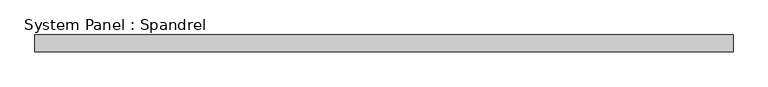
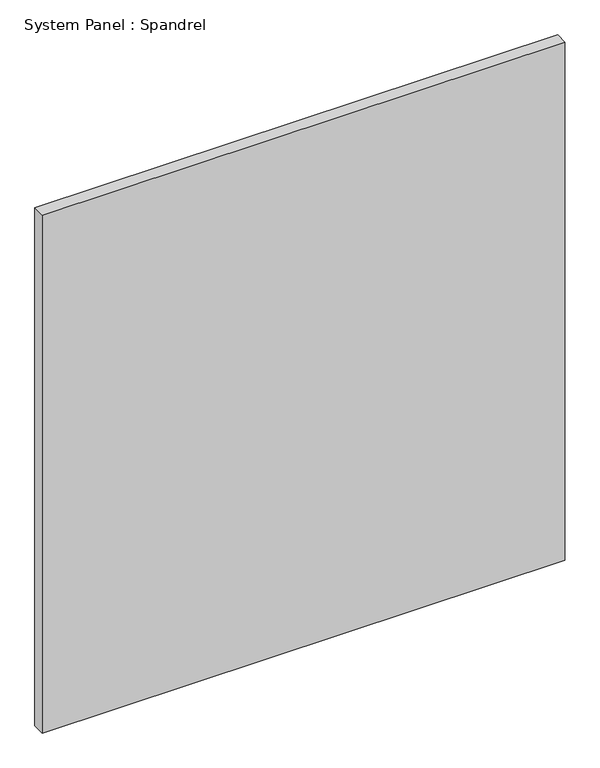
"""IFC4 building model written with IfcOpenShell, lengths in millimetres: plate geometry, System Panel : Spandrel."""

from ifc_helpers import new_model, si_unit, origin, origin_with_axes, place, context, project, spatial, polyline, outline, extrude, source, transform, mapped, element, save


def system_panel_spandrel_4d13cf3d(model_context):
    return source(origin(), model_context, "Body", "SweptSolid", [
        extrude(outline(polyline([(524.9276336, -25.0), (-524.9276336, -25.0), (-524.9276336, 0.0), (524.9276336, 0.0), (524.9276336, -25.0)])), origin_with_axes(), (0.0, 0.0, 1.0), 1100.0),
    ])


if __name__ == "__main__":
    model = new_model("IFC4")
    model_context = context("Model", 3, world=origin())
    ifc_project = project(units=[si_unit("LENGTHUNIT", "METRE", prefix="MILLI")], contexts=[model_context])
    site = spatial("IfcSite", under=ifc_project)
    building = spatial("IfcBuilding", under=site)
    placement = place(None, origin())
    system_panel_spandrel_shape = system_panel_spandrel_4d13cf3d(model_context)
    element("IfcPlate", 1, ObjectType="System Panel : Spandrel", at=placement, inside=building, context=model_context, shape_type="MappedRepresentation", body=[
        mapped(system_panel_spandrel_shape, transform((0.0, 0.0, 0.0), x_axis=(1.0, 0.0, 0.0), y_axis=(0.0, 1.0, 0.0), z_axis=(0.0, 0.0, 1.0))),
    ])
    save(model, "model.ifc")
